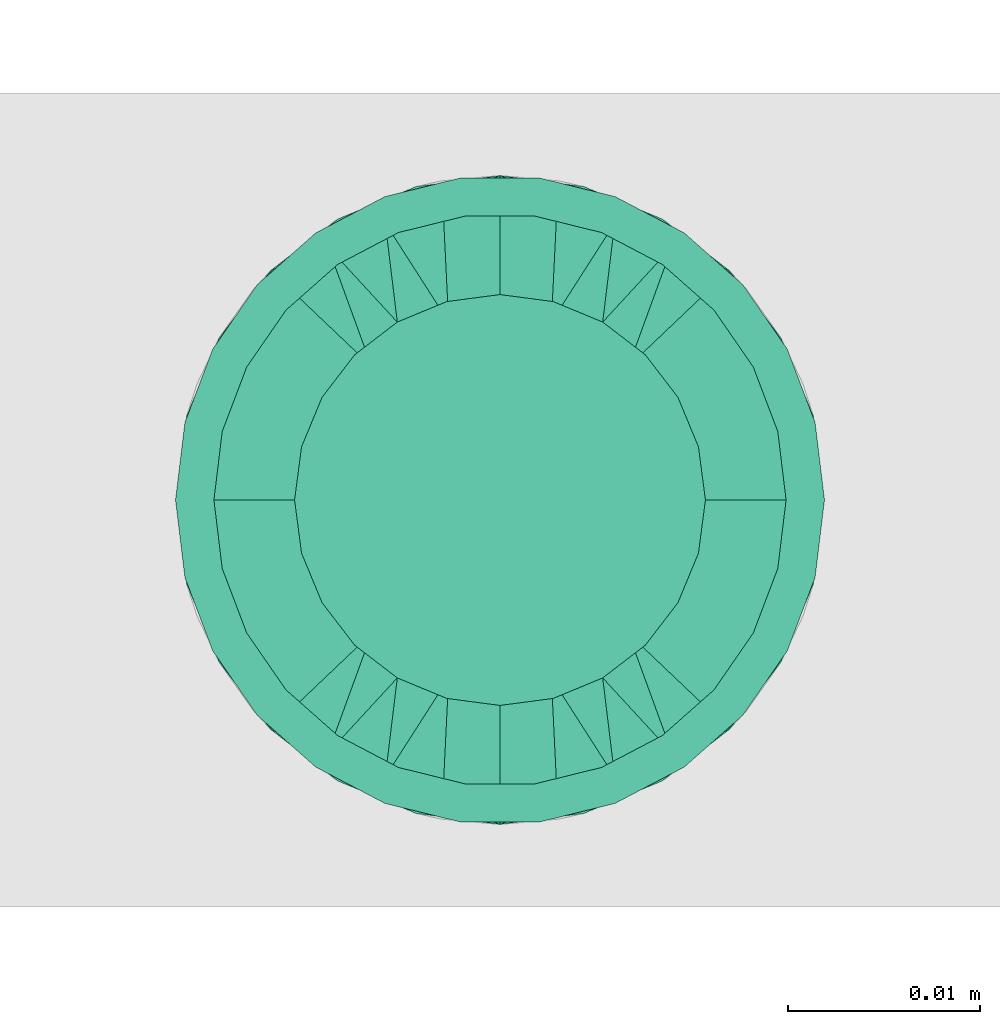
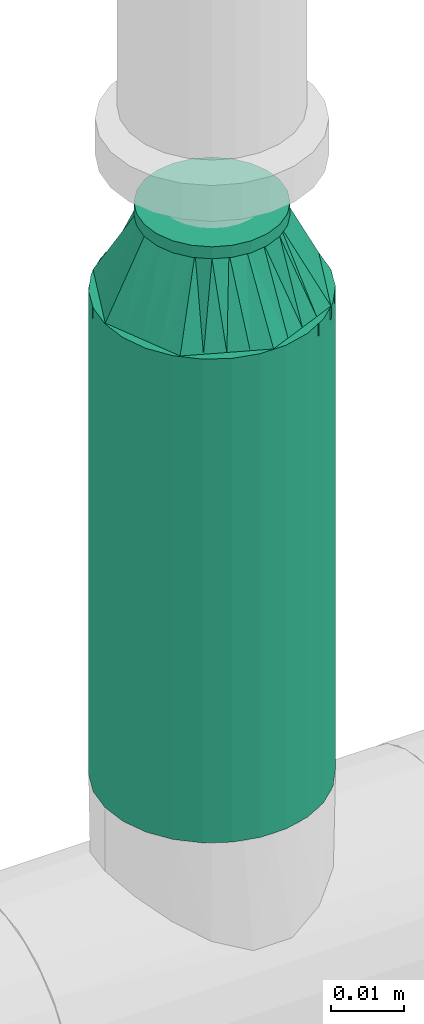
# One storey, part 46 of 94: 1 flow fitting, 1 flow segment.
"""IFC2X3 building model written with IfcOpenShell, lengths in millimetres."""

from ifc_helpers import new_model, entity, si_unit, converted_unit, derived_unit, direction, frame, origin_with_axes, origin_2d_with_axis, place, context, subcontext, project, spatial, hollow_circle, extrude, open_shell, surface_model, source, transform, mapped, type_object, element, save


model = new_model("IFC2X3")

# Units and contexts
model_context = context("Model", 3, precision=0.01, world=frame((0.0, 4.29681676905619e-09, 0.0)), true_north=direction((4.01073788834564e-13, 1.0)))
plan_context = context("Plan", 3, precision=0.01, world=frame((0.0, 4.29681676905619e-09, 0.0)), true_north=direction((4.01073788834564e-13, 1.0)))
body_context = subcontext(model_context, "Body", "Model", "MODEL_VIEW")
ifc_project = project(units=[converted_unit("PLANEANGLEUNIT", "DEGREE", entity("IfcPositiveLengthMeasure", 0.0174532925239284), si_unit("PLANEANGLEUNIT", "RADIAN"), dimensions=[0, 0, 0, 0, 0, 0, 0]), si_unit("AREAUNIT", "SQUARE_METRE"), si_unit("LENGTHUNIT", "METRE", prefix="MILLI"), si_unit("MASSUNIT", "GRAM", prefix="KILO"), si_unit("POWERUNIT", "WATT"), si_unit("PRESSUREUNIT", "PASCAL"), si_unit("FORCEUNIT", "NEWTON", prefix="KILO"), si_unit("ELECTRICCURRENTUNIT", "AMPERE"), si_unit("THERMODYNAMICTEMPERATUREUNIT", "DEGREE_CELSIUS"), si_unit("TIMEUNIT", "SECOND"), si_unit("VOLUMEUNIT", "CUBIC_METRE"), derived_unit("LINEARVELOCITYUNIT", [(si_unit("LENGTHUNIT", "METRE"), 1), (si_unit("TIMEUNIT", "SECOND"), -1)]), derived_unit("VOLUMETRICFLOWRATEUNIT", [(si_unit("VOLUMEUNIT", "CUBIC_METRE"), 1), (si_unit("TIMEUNIT", "SECOND"), -1)]), derived_unit("THERMALTRANSMITTANCEUNIT", [(si_unit("POWERUNIT", "WATT"), 1), (si_unit("THERMODYNAMICTEMPERATUREUNIT", "KELVIN"), -1), (si_unit("AREAUNIT", "SQUARE_METRE"), -1)])], contexts=[model_context, plan_context])

# Site, building, storey
site_placement = place(None, frame((0.0, -4.29681676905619e-09, 0.0), z_axis=(0.0, 0.0, 1.0), x_axis=(1.0, 0.0, 0.0)))
site = spatial("IfcSite", under=ifc_project, at=site_placement, CompositionType="ELEMENT")
building_placement = place(site_placement, frame((0.0, 4.29681676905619e-09, 0.0), z_axis=(0.0, 0.0, 1.0), x_axis=(1.0, 0.0, 0.0)))
building = spatial("IfcBuilding", under=site, at=building_placement, Name="mc-building", CompositionType="ELEMENT")
storey_placement = place(building_placement, frame((0.0, 0.0, 200300.0), z_axis=(0.0, 0.0, 1.0), x_axis=(1.0, 0.0, 0.0)))
storey = spatial("IfcBuildingStorey", under=building, at=storey_placement, Name="Nivå C", CompositionType="ELEMENT", Elevation=200300.0)

# Flow fitting
pipe_fitting_type = type_object("IfcPipeFittingType", Name="magi_pipe_fe_reducer_centric_short_NOR", PredefinedType="TRANSITION")
shared_shape_1 = source(origin_with_axes(), body_context, "Body", "SurfaceModel", [
    surface_model("IfcShellBasedSurfaceModel", [(14.4, 5.35, -9.26647), (14.4, 0.0, -10.7), (14.4, 2.76936, -10.33541), (14.4, 10.33541, -2.76936), (14.4, 7.56604, -7.56604), (14.4, -10.33541, -2.76936), (14.4, 9.26647, -5.35), (14.4, 0.0, 10.7), (14.4, -5.35, -9.26647), (14.4, -2.76936, -10.33541), (14.4, -7.56604, -7.56604), (14.4, -9.26647, -5.35), (14.4, 10.7, 0.0), (14.4, 10.33541, 2.76936), (14.4, 9.26647, 5.35), (14.4, 7.56604, 7.56604), (14.4, 2.76936, 10.33541), (14.4, 5.35, 9.26647), (14.4, -10.33541, 2.76936), (14.4, -7.56604, 7.56604), (14.4, -9.26647, 5.35), (14.4, -10.7, 0.0), (14.4, -2.76936, 10.33541), (14.4, -5.35, 9.26647), (12.4, 2.76936, 10.33541), (12.4, -10.33541, -2.76936), (12.4, 0.0, 10.7), (12.4, 5.35, 9.26647), (12.4, 7.56604, 7.56604), (12.4, 9.26647, 5.35), (12.4, 10.33541, 2.76936), (12.4, -10.33541, 2.76936), (12.4, -2.76936, 10.33541), (12.4, -7.56604, 7.56604), (12.4, -5.35, 9.26647), (12.4, -9.26647, 5.35), (12.4, -10.7, 0.0), (12.4, 10.33541, -2.76936), (12.4, 5.35, -9.26647), (12.4, 9.26647, -5.35), (12.4, 7.56604, -7.56604), (12.4, 2.76936, -10.33541), (12.4, -9.26647, -5.35), (12.4, -5.35, -9.26647), (12.4, -7.56604, -7.56604), (12.4, 0.0, -10.7), (12.4, -2.76936, -10.33541), (12.4, 10.7, 0.0), (-2.0, 11.9501, 11.9501), (-2.0, 0.0, 16.9), (-2.0, 4.37404, 16.32415), (-2.0, 8.45, 14.63583), (-2.0, 14.63583, 8.45), (-2.0, 16.32415, 4.37404), (-2.0, -16.32415, 4.37404), (-2.0, -8.45, 14.63583), (-2.0, -14.63583, 8.45), (-2.0, -11.9501, 11.9501), (-2.0, -4.37404, 16.32415), (-2.0, -16.32415, -4.37404), (-2.0, -16.9, 0.0), (-2.0, -8.45, -14.63583), (-2.0, 16.32415, -4.37404), (-2.0, 11.9501, -11.9501), (-2.0, 14.63583, -8.45), (-2.0, 8.45, -14.63583), (-2.0, 4.37404, -16.32415), (-2.0, 0.0, -16.9), (-2.0, -11.9501, -11.9501), (-2.0, -14.63583, -8.45), (-2.0, -4.37404, -16.32415), (-2.0, 16.9, 0.0), (0.0, 4.37404, -16.32415), (0.0, 8.45, -14.63583), (0.0, 11.9501, -11.9501), (0.0, 0.0, -16.9), (0.0, 16.32415, -4.37404), (0.0, 16.32415, 4.37404), (0.0, 14.63583, -8.45), (0.0, -8.45, -14.63583), (0.0, -4.37404, -16.32415), (0.0, -11.9501, -11.9501), (0.0, -16.32415, -4.37404), (0.0, -14.63583, -8.45), (0.0, -16.32415, 4.37404), (0.0, 16.9, 0.0), (0.0, 14.63583, 8.45), (0.0, 11.9501, 11.9501), (0.0, 4.37404, 16.32415), (0.0, 8.45, 14.63583), (0.0, 0.0, 16.9), (0.0, -14.63583, 8.45), (0.0, -16.9, 0.0), (0.0, -8.45, 14.63583), (0.0, -11.9501, 11.9501), (0.0, -4.37404, 16.32415), (12.4, 9.3625, -2.31662), (0.0, 14.42505, -5.97505), (0.0, 15.66253, -2.98753), (12.4, -6.6875, -6.94985), (0.0, -13.18758, -8.96258), (0.0, 2.98753, -15.66253), (12.4, 0.0, -9.26647), (12.4, 6.6875, -6.94985), (0.0, 8.96258, -13.18758), (12.4, -9.3625, -2.31662), (0.0, -15.66253, -2.98753), (0.0, -14.42505, -5.97505), (0.0, 5.97505, -14.42505), (0.0, -2.98753, -15.66253), (0.0, -8.96258, -13.18758), (0.0, 13.18758, -8.96258), (12.4, 8.025, -4.63324), (12.4, -2.675, -9.26647), (12.4, 2.675, -9.26647), (0.0, -5.97505, -14.42505), (12.4, -8.025, -4.63324), (12.4, -9.3625, 2.31662), (0.0, -14.42505, 5.97505), (0.0, -15.66253, 2.98753), (12.4, 6.6875, 6.94985), (0.0, 13.18758, 8.96258), (0.0, -2.98753, 15.66253), (12.4, 0.0, 9.26647), (12.4, -6.6875, 6.94985), (0.0, -8.96258, 13.18758), (12.4, 9.3625, 2.31662), (0.0, 15.66253, 2.98753), (0.0, 14.42505, 5.97505), (0.0, -5.97505, 14.42505), (0.0, 2.98753, 15.66253), (0.0, 8.96258, 13.18758), (0.0, -13.18758, 8.96258), (12.4, -8.025, 4.63324), (12.4, 2.675, 9.26647), (12.4, -2.675, 9.26647), (0.0, 5.97505, 14.42505), (12.4, 8.025, 4.63324)], [open_shell([[[0, 1, 2]], [[3, 0, 4]], [[5, 0, 3]], [[3, 4, 6]], [[7, 5, 3]], [[1, 8, 9]], [[1, 0, 8]], [[10, 5, 11]], [[5, 10, 8]], [[0, 5, 8]], [[3, 12, 13]], [[13, 14, 15]], [[13, 15, 16]], [[7, 3, 16]], [[16, 15, 17]], [[7, 18, 5]], [[18, 19, 20]], [[21, 5, 18]], [[19, 22, 23]], [[22, 19, 18]], [[7, 22, 18]], [[13, 16, 3]], [[24, 25, 26]], [[27, 25, 24]], [[28, 29, 30]], [[28, 25, 27]], [[31, 26, 25]], [[32, 33, 34]], [[33, 32, 31]], [[33, 31, 35]], [[32, 26, 31]], [[31, 25, 36]], [[30, 37, 28]], [[25, 28, 37]], [[38, 37, 39]], [[37, 38, 25]], [[38, 39, 40]], [[41, 25, 38]], [[42, 43, 44]], [[43, 42, 25]], [[43, 45, 46]], [[43, 25, 41]], [[41, 45, 43]], [[37, 30, 47]], [[25, 5, 36]], [[42, 11, 25]], [[8, 44, 43]], [[42, 44, 10]], [[9, 43, 46]], [[25, 11, 5]], [[5, 21, 36]], [[9, 8, 43]], [[10, 44, 8]], [[10, 11, 42]], [[1, 9, 46]], [[46, 45, 1]], [[41, 2, 45]], [[38, 0, 41]], [[6, 40, 39]], [[38, 40, 4]], [[3, 39, 37]], [[38, 4, 0]], [[0, 2, 41]], [[12, 3, 37]], [[6, 39, 3]], [[6, 4, 40]], [[47, 12, 37]], [[45, 2, 1]], [[30, 13, 47]], [[29, 14, 30]], [[17, 28, 27]], [[29, 28, 15]], [[16, 27, 24]], [[30, 14, 13]], [[13, 12, 47]], [[16, 17, 27]], [[15, 28, 17]], [[15, 14, 29]], [[7, 16, 24]], [[24, 26, 7]], [[32, 22, 26]], [[34, 23, 32]], [[20, 33, 35]], [[34, 33, 19]], [[18, 35, 31]], [[34, 19, 23]], [[23, 22, 32]], [[21, 18, 31]], [[20, 35, 18]], [[20, 19, 33]], [[36, 21, 31]], [[26, 22, 7]], [[48, 49, 50]], [[48, 50, 51]], [[48, 52, 53]], [[48, 53, 49]], [[49, 53, 54]], [[55, 56, 57]], [[55, 58, 49]], [[56, 55, 49]], [[49, 54, 56]], [[54, 59, 60]], [[54, 53, 61]], [[53, 62, 63]], [[63, 62, 64]], [[63, 65, 66]], [[61, 53, 63]], [[67, 63, 66]], [[59, 68, 69]], [[68, 59, 61]], [[61, 67, 70]], [[59, 54, 61]], [[63, 67, 61]], [[53, 71, 62]], [[72, 73, 74]], [[75, 72, 74]], [[74, 76, 77]], [[76, 74, 78]], [[74, 77, 79]], [[75, 79, 80]], [[75, 74, 79]], [[81, 82, 83]], [[82, 81, 79]], [[79, 84, 82]], [[77, 76, 85]], [[77, 86, 87]], [[77, 87, 88]], [[88, 84, 79]], [[88, 87, 89]], [[84, 88, 90]], [[90, 91, 84]], [[92, 82, 84]], [[91, 93, 94]], [[91, 90, 93]], [[93, 90, 95]], [[79, 77, 88]], [[59, 82, 60]], [[69, 83, 59]], [[79, 68, 61]], [[69, 68, 81]], [[80, 61, 70]], [[59, 83, 82]], [[82, 92, 60]], [[80, 79, 61]], [[81, 68, 79]], [[81, 83, 69]], [[75, 80, 70]], [[70, 67, 75]], [[66, 72, 67]], [[65, 73, 66]], [[78, 63, 64]], [[65, 63, 74]], [[76, 64, 62]], [[65, 74, 73]], [[73, 72, 66]], [[85, 76, 62]], [[78, 64, 76]], [[78, 74, 63]], [[71, 85, 62]], [[67, 72, 75]], [[53, 77, 71]], [[52, 86, 53]], [[89, 48, 51]], [[52, 48, 87]], [[88, 51, 50]], [[53, 86, 77]], [[77, 85, 71]], [[88, 89, 51]], [[87, 48, 89]], [[87, 86, 52]], [[90, 88, 50]], [[50, 49, 90]], [[58, 95, 49]], [[55, 93, 58]], [[91, 57, 56]], [[55, 57, 94]], [[84, 56, 54]], [[55, 94, 93]], [[93, 95, 58]], [[92, 84, 54]], [[91, 56, 84]], [[91, 94, 57]], [[60, 92, 54]], [[49, 95, 90]], [[27, 34, 47]], [[47, 34, 43]], [[43, 38, 47]], [[43, 34, 36]], [[90, 87, 94]], [[92, 94, 87]], [[87, 74, 92]], [[75, 92, 74]], [[81, 92, 75]], [[74, 87, 85]], [[96, 97, 98]], [[81, 99, 100]], [[101, 102, 75]], [[98, 85, 47]], [[74, 103, 104]], [[104, 103, 38]], [[105, 106, 107]], [[38, 108, 104]], [[102, 109, 75]], [[110, 99, 81]], [[47, 96, 98]], [[103, 111, 112]], [[109, 102, 113]], [[36, 92, 106]], [[102, 101, 114]], [[110, 115, 43]], [[96, 112, 97]], [[107, 116, 105]], [[36, 106, 105]], [[113, 115, 109]], [[43, 115, 113]], [[116, 107, 100]], [[108, 38, 114]], [[111, 103, 74]], [[111, 97, 112]], [[99, 110, 43]], [[116, 100, 99]], [[101, 108, 114]], [[117, 118, 119]], [[87, 120, 121]], [[122, 123, 90]], [[119, 92, 36]], [[94, 124, 125]], [[125, 124, 34]], [[126, 127, 128]], [[34, 129, 125]], [[123, 130, 90]], [[131, 120, 87]], [[36, 117, 119]], [[124, 132, 133]], [[130, 123, 134]], [[47, 85, 127]], [[123, 122, 135]], [[131, 136, 27]], [[117, 133, 118]], [[128, 137, 126]], [[47, 127, 126]], [[134, 136, 130]], [[27, 136, 134]], [[137, 128, 121]], [[129, 34, 135]], [[132, 124, 94]], [[132, 118, 133]], [[120, 131, 27]], [[137, 121, 120]], [[122, 129, 135]]])]),
])
flow_fitting_placement = place(storey_placement, frame((518497.26879, 412998.99053, 2962.64799999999), z_axis=(0.0, -1.0, 0.0), x_axis=(0.0, 0.0, 1.0)))
element("IfcFlowFitting", 1, at=flow_fitting_placement, inside=storey, type_object=pipe_fitting_type, Name="magi_pipe_fe_reducer_centric_short_NOR", context=body_context, shape_type="MappedRepresentation", body=[
    mapped(shared_shape_1, transform((0.0, 0.0, 0.0), scale=1.0)),
])

# Flow segment
pipe_segment_type = type_object("IfcPipeSegmentType", Name="Stålrør normaltykke", PredefinedType="RIGIDSEGMENT")
shared_shape_2 = source(origin_with_axes(), body_context, "Body", "SweptSolid", [
    extrude(hollow_circle(Radius=16.9, WallThickness=2.0, at=origin_2d_with_axis()), frame((0.0, 0.0, 0.0), z_axis=(1.0, 0.0, 0.0), x_axis=(0.0, 1.0, 0.0)), (0.0, 0.0, 1.0), 80.8),
])
flow_segment_placement = place(storey_placement, frame((518497.26879, 412998.99053, 2881.79999999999), z_axis=(0.0, 1.0, 0.0), x_axis=(0.0, 0.0, 1.0)))
element("IfcFlowSegment", 2, at=flow_segment_placement, inside=storey, type_object=pipe_segment_type, Name="Stålrør normaltykke", context=body_context, shape_type="MappedRepresentation", body=[
    mapped(shared_shape_2, transform((0.0, 0.0, 0.0), scale=1.0)),
])

save(model, "model.ifc")
